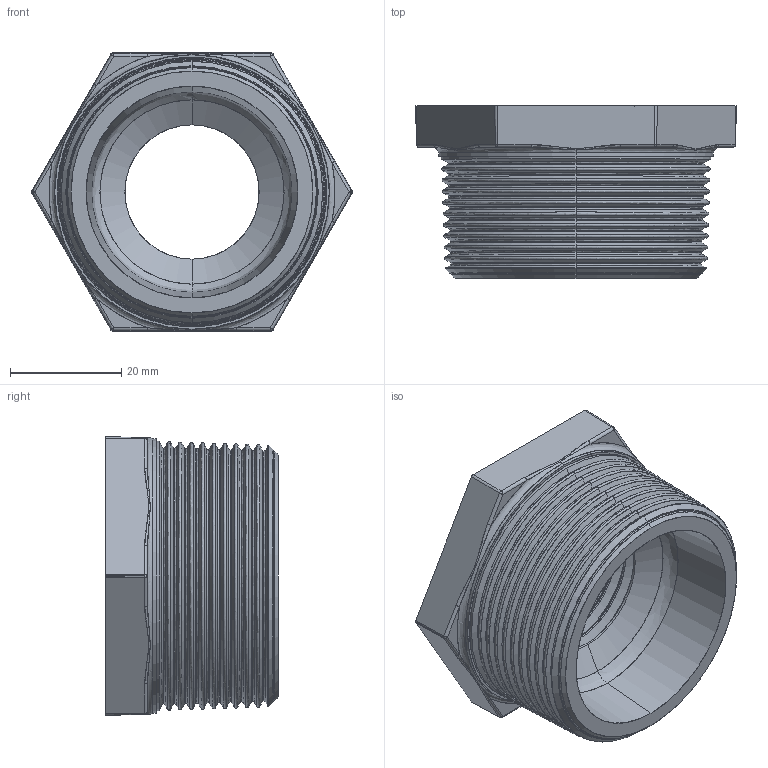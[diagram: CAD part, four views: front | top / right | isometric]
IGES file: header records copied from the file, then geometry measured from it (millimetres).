
Start section: SolidWorks IGES file using analytic representation for surfaces
Global section: file name: C:\Users\Joel Rosa\Desktop\Tubulação\12-01-OK\12-01-040.IGS; native system: SolidWorks 2011; preprocessor: SolidWorks 2011; author: Joel Rosa; date: 121203.200330; units: millimetre
Bounding box: 57.58 x 31 x 50 mm (x, y, z)
Surface area: 13195 mm2 (no closed solid volume)
Topology: 0 solids, 0 shells, 378 faces, 3141 edges, 3141 vertices
Faces by surface type: bspline 271, revolution 107
